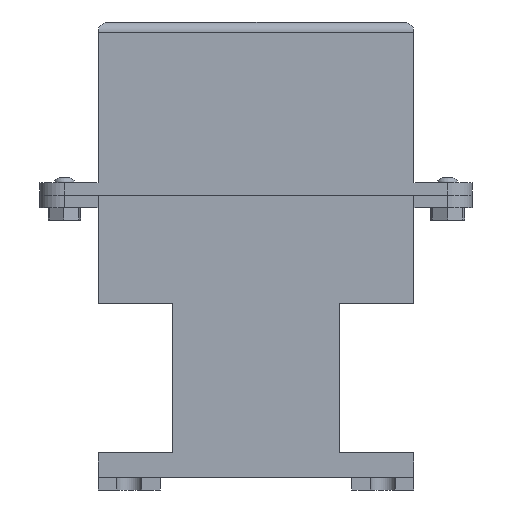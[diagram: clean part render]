
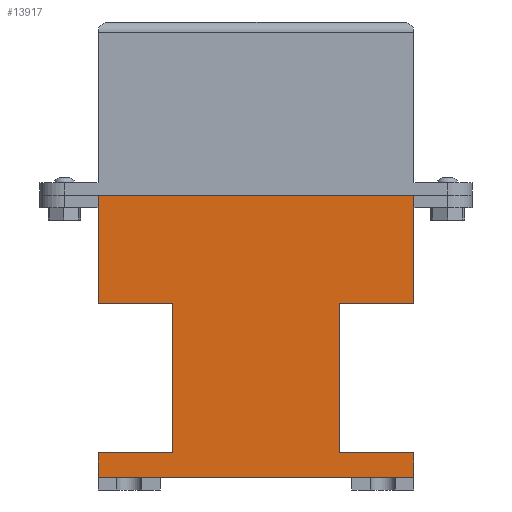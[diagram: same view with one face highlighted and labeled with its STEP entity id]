
A CAD part, left-side view. The second image highlights one B-rep face of the part: STEP entity #13917.
In plain terms, the highlighted planar face has unit normal (-1, 0, 0).
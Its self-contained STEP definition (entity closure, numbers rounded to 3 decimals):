
#1409=FACE_OUTER_BOUND('',#2205,.T.);
#2205=EDGE_LOOP('',(#11747,#11748,#11749,#11750,#11751,#11752,#11753,#11754,
#11755,#11756,#11757,#11758));
#3426=LINE('',#23628,#4914);
#3441=LINE('',#23664,#4929);
#3447=LINE('',#23676,#4935);
#3457=LINE('',#23692,#4945);
#3462=LINE('',#23703,#4950);
#3465=LINE('',#23708,#4953);
#3499=LINE('',#23791,#4987);
#3500=LINE('',#23794,#4988);
#3502=LINE('',#23797,#4990);
#3503=LINE('',#23799,#4991);
#3505=LINE('',#23803,#4993);
#3506=LINE('',#23805,#4994);
#4914=VECTOR('',#16601,10.);
#4929=VECTOR('',#16626,10.);
#4935=VECTOR('',#16636,10.);
#4945=VECTOR('',#16648,10.);
#4950=VECTOR('',#16657,10.);
#4953=VECTOR('',#16662,10.);
#4987=VECTOR('',#16758,10.);
#4988=VECTOR('',#16761,10.);
#4990=VECTOR('',#16765,10.);
#4991=VECTOR('',#16768,10.);
#4993=VECTOR('',#16772,10.);
#4994=VECTOR('',#16775,10.);
#6359=VERTEX_POINT('',#23625);
#6360=VERTEX_POINT('',#23627);
#6375=VERTEX_POINT('',#23661);
#6376=VERTEX_POINT('',#23663);
#6379=VERTEX_POINT('',#23673);
#6380=VERTEX_POINT('',#23675);
#6388=VERTEX_POINT('',#23700);
#6389=VERTEX_POINT('',#23702);
#6390=VERTEX_POINT('',#23706);
#6408=VERTEX_POINT('',#23789);
#6409=VERTEX_POINT('',#23793);
#6410=VERTEX_POINT('',#23801);
#8173=EDGE_CURVE('',#6360,#6359,#3426,.T.);
#8191=EDGE_CURVE('',#6376,#6375,#3441,.T.);
#8197=EDGE_CURVE('',#6380,#6379,#3447,.T.);
#8207=EDGE_CURVE('',#6360,#6379,#3457,.T.);
#8212=EDGE_CURVE('',#6388,#6389,#3462,.T.);
#8215=EDGE_CURVE('',#6388,#6390,#3465,.T.);
#8255=EDGE_CURVE('',#6359,#6408,#3499,.T.);
#8256=EDGE_CURVE('',#6409,#6376,#3500,.T.);
#8258=EDGE_CURVE('',#6408,#6409,#3502,.T.);
#8259=EDGE_CURVE('',#6390,#6380,#3503,.T.);
#8261=EDGE_CURVE('',#6375,#6410,#3505,.T.);
#8262=EDGE_CURVE('',#6389,#6410,#3506,.T.);
#11747=ORIENTED_EDGE('',*,*,#8258,.T.);
#11748=ORIENTED_EDGE('',*,*,#8256,.T.);
#11749=ORIENTED_EDGE('',*,*,#8191,.T.);
#11750=ORIENTED_EDGE('',*,*,#8261,.T.);
#11751=ORIENTED_EDGE('',*,*,#8262,.F.);
#11752=ORIENTED_EDGE('',*,*,#8212,.F.);
#11753=ORIENTED_EDGE('',*,*,#8215,.T.);
#11754=ORIENTED_EDGE('',*,*,#8259,.T.);
#11755=ORIENTED_EDGE('',*,*,#8197,.T.);
#11756=ORIENTED_EDGE('',*,*,#8207,.F.);
#11757=ORIENTED_EDGE('',*,*,#8173,.T.);
#11758=ORIENTED_EDGE('',*,*,#8255,.T.);
#13129=PLANE('',#14582);
#13917=ADVANCED_FACE('',(#1409),#13129,.T.);
#14582=AXIS2_PLACEMENT_3D('',#23804,#16773,#16774);
#16601=DIRECTION('',(0.,1.,0.));
#16626=DIRECTION('',(0.,1.,0.));
#16636=DIRECTION('',(0.,-1.,0.));
#16648=DIRECTION('',(0.,0.,-1.));
#16657=DIRECTION('',(0.,0.,-1.));
#16662=DIRECTION('',(0.,1.,0.));
#16758=DIRECTION('',(0.,0.,-1.));
#16761=DIRECTION('',(0.,0.,-1.));
#16765=DIRECTION('',(0.,-1.,0.));
#16768=DIRECTION('',(0.,0.,1.));
#16772=DIRECTION('',(0.,0.,-1.));
#16773=DIRECTION('center_axis',(-1.,0.,0.));
#16774=DIRECTION('ref_axis',(0.,1.,0.));
#16775=DIRECTION('',(0.,1.,0.));
#23625=CARTESIAN_POINT('',(-10.,127.,0.));
#23627=CARTESIAN_POINT('',(-10.,0.,0.));
#23628=CARTESIAN_POINT('',(-10.,0.,0.));
#23661=CARTESIAN_POINT('',(-10.,127.,-103.5));
#23663=CARTESIAN_POINT('',(-10.,97.,-103.5));
#23664=CARTESIAN_POINT('',(-10.,48.5,-103.5));
#23673=CARTESIAN_POINT('',(-10.,0.,-43.5));
#23675=CARTESIAN_POINT('',(-10.,30.,-43.5));
#23676=CARTESIAN_POINT('',(-10.,15.,-43.5));
#23692=CARTESIAN_POINT('',(-10.,0.,0.));
#23700=CARTESIAN_POINT('',(-10.,0.,-103.5));
#23702=CARTESIAN_POINT('',(-10.,0.,-113.5));
#23703=CARTESIAN_POINT('',(-10.,0.,0.));
#23706=CARTESIAN_POINT('',(-10.,30.,-103.5));
#23708=CARTESIAN_POINT('',(-10.,0.,-103.5));
#23789=CARTESIAN_POINT('',(-10.,127.,-43.5));
#23791=CARTESIAN_POINT('',(-10.,127.,0.));
#23793=CARTESIAN_POINT('',(-10.,97.,-43.5));
#23794=CARTESIAN_POINT('',(-10.,97.,-21.75));
#23797=CARTESIAN_POINT('',(-10.,63.5,-43.5));
#23799=CARTESIAN_POINT('',(-10.,30.,-51.75));
#23801=CARTESIAN_POINT('',(-10.,127.,-113.5));
#23803=CARTESIAN_POINT('',(-10.,127.,0.));
#23804=CARTESIAN_POINT('Origin',(-10.,0.,0.));
#23805=CARTESIAN_POINT('',(-10.,0.,-113.5));
